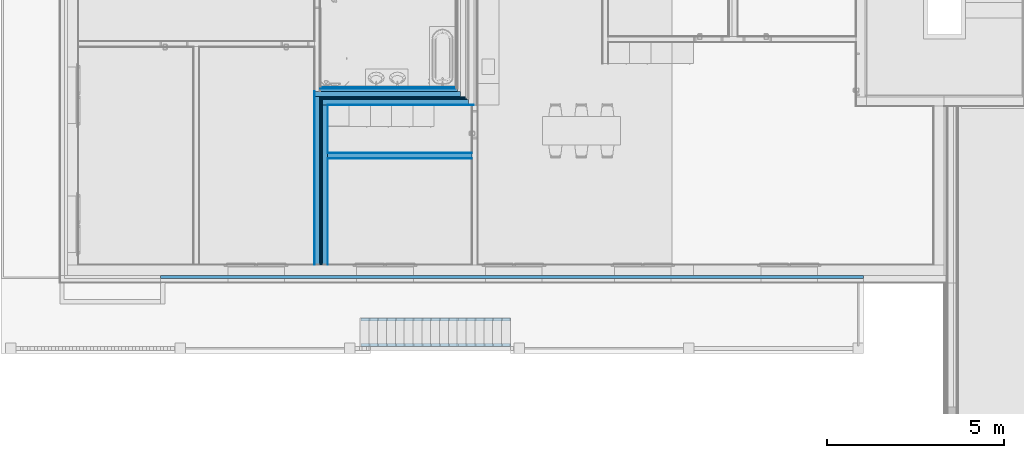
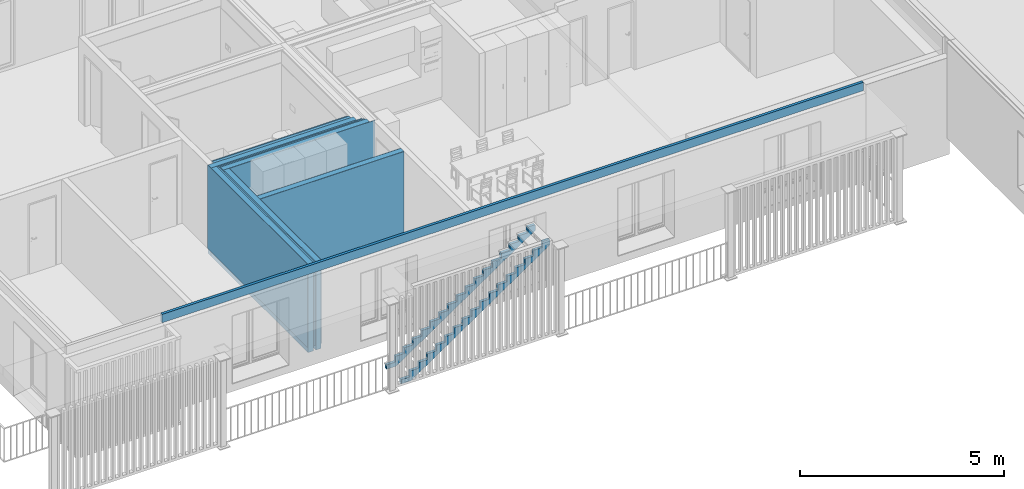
# One storey, part 6 of 34: 19 building element parts, 1 discrete accessory, 7 elements without a shape of their own.
"""IFC4 building model written with IfcOpenShell, lengths in millimetres."""

from ifc_helpers import new_model, entity, si_unit, converted_unit, derived_unit, direction, frame, origin_with_axes, place, context, subcontext, project, spatial, polygons, material, type_object, element, aggregate, save


model = new_model("IFC4")

# Units and contexts
model_context = context("Model", 3, precision=0.01, world=origin_with_axes(), true_north=direction((0.0, 1.0)))
body_context = subcontext(model_context, "Body", "Model", "MODEL_VIEW")
ifc_project = project(units=[si_unit("LENGTHUNIT", "METRE", prefix="MILLI"), si_unit("AREAUNIT", "SQUARE_METRE"), si_unit("VOLUMEUNIT", "CUBIC_METRE"), converted_unit("PLANEANGLEUNIT", "DEGREE", entity("IfcPlaneAngleMeasure", 0.0174532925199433), si_unit("PLANEANGLEUNIT", "RADIAN"), dimensions=[0, 0, 0, 0, 0, 0, 0]), converted_unit("TIMEUNIT", "Year", entity("IfcTimeMeasure", 31557600.0), si_unit("TIMEUNIT", "SECOND"), dimensions=[0, 0, 1, 0, 0, 0, 0]), si_unit("MASSUNIT", "GRAM", prefix="KILO"), si_unit("THERMODYNAMICTEMPERATUREUNIT", "DEGREE_CELSIUS"), si_unit("LUMINOUSINTENSITYUNIT", "LUMEN"), si_unit("ENERGYUNIT", "JOULE", prefix="MEGA"), derived_unit("THERMALCONDUCTANCEUNIT", [(si_unit("POWERUNIT", "WATT"), 1), (si_unit("LENGTHUNIT", "METRE"), -1), (si_unit("THERMODYNAMICTEMPERATUREUNIT", "KELVIN"), -1)]), derived_unit("SPECIFICHEATCAPACITYUNIT", [(si_unit("ENERGYUNIT", "JOULE"), 1), (si_unit("MASSUNIT", "GRAM", prefix="KILO"), -1), (si_unit("THERMODYNAMICTEMPERATUREUNIT", "KELVIN"), -1)]), derived_unit("MASSDENSITYUNIT", [(si_unit("MASSUNIT", "GRAM", prefix="KILO"), 1), (si_unit("VOLUMEUNIT", "CUBIC_METRE"), -1)])], contexts=[model_context])

# Site, building, storey
site_placement = place(None, origin_with_axes())
site = spatial("IfcSite", under=ifc_project, at=site_placement, Name="Gelände", CompositionType="ELEMENT")
building_placement = place(site_placement, origin_with_axes())
building = spatial("IfcBuilding", under=site, at=building_placement, Name="Gebäude", CompositionType="ELEMENT")
storey_placement = place(building_placement, frame((0.0, 0.0, 2900.0), z_axis=(0.0, 0.0, 1.0), x_axis=(1.0, 0.0, 0.0)))
storey = spatial("IfcBuildingStorey", under=building, at=storey_placement, Name="1.OG", CompositionType="ELEMENT", Elevation=2900.0)

# Discrete accessory
ifc_material_1 = material(Name="Bewehrung")
discrete_accessory_type = type_object("IfcDiscreteAccessoryType", Name="Bewehrung 80 x 250", PredefinedType="NOTDEFINED")
discrete_accessory_placement = place(storey_placement, frame((-4228.246602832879, 23157.59674077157, 2649.999948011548), z_axis=(0.0, 0.0, 1.0), x_axis=(0.0, -1.0, 0.0)))
element("IfcDiscreteAccessory", 1, at=discrete_accessory_placement, inside=storey, type_object=discrete_accessory_type, material=ifc_material_1, Name="Unterzug-029", PredefinedType="NOTDEFINED", context=body_context, shape_type="Tessellation", body=[
    polygons([(0.0, 19866.2424213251, 0.0), (79.9999999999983, 19866.2424213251, 0.0), (79.9999999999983, 0.0, 0.0), (0.0, 0.0, 0.0), (0.0, 19866.2424213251, 250.0), (79.9999999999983, 19866.2424213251, 250.0), (79.9999999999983, 0.0, 250.0), (0.0, 0.0, 250.0)], [[[1, 2, 3, 4]], [[1, 5, 6, 2]], [[2, 6, 7, 3]], [[4, 3, 7, 8]], [[5, 1, 4, 8]], [[6, 5, 8, 7]]], closed=True),
])

# Wall, building element parts
wall_type_1 = type_object("IfcWallType", Name="Innenwand Typ 05 170", PredefinedType="NOTDEFINED")
wall_1_placement = place(storey_placement, frame((4740.995818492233, 26457.59674077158, 0.0), z_axis=(0.0, 0.0, 1.0), x_axis=(-1.0, 0.0, 0.0)))
wall_1 = element("IfcWall", 2, at=wall_1_placement, inside=storey, type_object=wall_type_1, Name="Wand-014", PredefinedType="NOTDEFINED")
ifc_material_2 = material(Name="Kalkzementputz Aussen")
building_element_part_1_placement = place(wall_1_placement, origin_with_axes())
building_element_part_1 = element("IfcBuildingElementPart", 3, at=building_element_part_1_placement, material=ifc_material_2, Name="Kalkzementputz Aussen", PredefinedType="NOTDEFINED", context=body_context, shape_type="Tessellation", body=[
    polygons([(169.9999999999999, 0.0, 149.9999999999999), (169.9999999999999, -10.00000000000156, 149.9999999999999), (169.9999999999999, -10.00000000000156, 2649.999948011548), (169.9999999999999, 0.0, 2649.999948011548), (4238.00001840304, -10.00000000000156, 149.9999999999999), (4238.00001840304, 0.0, 149.9999999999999), (4238.00001840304, -10.00000000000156, 2649.999948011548), (4238.00001840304, 0.0, 2649.999948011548)], [[[1, 2, 3, 4]], [[5, 2, 1, 6]], [[2, 5, 7, 3]], [[7, 8, 4, 3]], [[6, 1, 4, 8]], [[5, 6, 8, 7]]], closed=True),
])
ifc_material_3 = material(Name="MW, Backstein")
building_element_part_2_placement = place(wall_1_placement, origin_with_axes())
building_element_part_2 = element("IfcBuildingElementPart", 4, at=building_element_part_2_placement, material=ifc_material_3, Name="MW, Backstein", PredefinedType="NOTDEFINED", context=body_context, shape_type="Tessellation", body=[
    polygons([(4248.00001840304, -10.00000000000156, 2649.999948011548), (160.0000000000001, -10.00000000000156, 2649.999948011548), (159.9999999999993, -160.0000000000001, 2649.999948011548), (4248.00001840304, -160.0000000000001, 2649.999948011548), (4248.00001840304, -10.00000000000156, 0.0), (160.0000000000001, -10.00000000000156, 0.0), (159.9999999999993, -160.0000000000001, 0.0), (4248.00001840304, -160.0000000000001, 0.0)], [[[1, 2, 3, 4]], [[5, 6, 2, 1]], [[3, 2, 6, 7]], [[4, 3, 7, 8]], [[4, 8, 5, 1]], [[8, 7, 6, 5]]], closed=True),
])
building_element_part_3_placement = place(wall_1_placement, origin_with_axes())
building_element_part_3 = element("IfcBuildingElementPart", 5, at=building_element_part_3_placement, material=ifc_material_2, Name="Kalkzementputz Aussen", PredefinedType="NOTDEFINED", context=body_context, shape_type="Tessellation", body=[
    polygons([(169.999999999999, -160.0000000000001, 149.9999999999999), (169.999999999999, -170.0000000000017, 149.9999999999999), (169.999999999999, -169.9999999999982, 2649.999948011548), (169.999999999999, -160.0000000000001, 2649.999948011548), (4238.00001840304, -170.0000000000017, 149.9999999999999), (4238.00001840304, -160.0000000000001, 149.9999999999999), (4238.00001840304, -170.0000000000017, 2649.999948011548), (4238.00001840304, -160.0000000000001, 2649.999948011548)], [[[1, 2, 3, 4]], [[5, 2, 1, 6]], [[2, 5, 7, 3]], [[7, 8, 4, 3]], [[6, 1, 4, 8]], [[5, 6, 8, 7]]], closed=True),
])
aggregate(wall_1, [building_element_part_1, building_element_part_2, building_element_part_3])

wall_type_2 = type_object("IfcWallType", Name="Trennwand Typ 03 - verputzt 200", PredefinedType="NOTDEFINED")
wall_2_placement = place(storey_placement, frame((122.9958184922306, 28364.37338563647, 0.0), z_axis=(0.0, 0.0, 1.0), x_axis=(0.0, -1.0, 0.0)))
wall_2 = element("IfcWall", 6, at=wall_2_placement, inside=storey, type_object=wall_type_2, Name="Wand-015", PredefinedType="NOTDEFINED")
ifc_material_4 = material(Name="Dämmung Innen")
building_element_part_4_placement = place(wall_2_placement, origin_with_axes())
building_element_part_4 = element("IfcBuildingElementPart", 7, at=building_element_part_4_placement, material=ifc_material_4, Name="Dämmung Innen", PredefinedType="NOTDEFINED", context=body_context, shape_type="Tessellation", body=[
    polygons([(4906.776644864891, 189.9999999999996, 149.9999999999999), (190.0000000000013, 189.9999999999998, 149.9999999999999), (190.0000000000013, 189.9999999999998, 2649.999948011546), (4906.776644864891, 190.0000000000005, 2649.999948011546), (190.0000000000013, 149.9999999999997, 149.9999999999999), (4906.776644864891, 150.0000000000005, 149.9999999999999), (190.0000000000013, 149.9999999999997, 2649.999948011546), (4906.776644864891, 150.0000000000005, 2649.999948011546)], [[[1, 2, 3, 4]], [[5, 2, 1, 6]], [[2, 5, 7, 3]], [[7, 8, 4, 3]], [[6, 1, 4, 8]], [[5, 6, 8, 7]]], closed=True),
])
building_element_part_5_placement = place(wall_2_placement, origin_with_axes())
building_element_part_5 = element("IfcBuildingElementPart", 8, at=building_element_part_5_placement, material=ifc_material_3, Name="MW, Backstein", PredefinedType="NOTDEFINED", context=body_context, shape_type="Tessellation", body=[
    polygons([(4906.776644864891, 150.0000000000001, 0.0), (4906.776644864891, 0.0, 0.0), (149.9999999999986, 0.0, 0.0), (149.9999999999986, 150.0, 0.0), (4906.776644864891, 150.0000000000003, 2649.999948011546), (4906.776644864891, 0.0, 2649.999948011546), (149.9999999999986, 0.0, 2649.999948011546), (149.9999999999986, 150.0000000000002, 2649.999948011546)], [[[1, 2, 3, 4]], [[1, 5, 6, 2]], [[2, 6, 7, 3]], [[4, 3, 7, 8]], [[5, 1, 4, 8]], [[6, 5, 8, 7]]], closed=True),
])
building_element_part_6_placement = place(wall_2_placement, origin_with_axes())
building_element_part_6 = element("IfcBuildingElementPart", 9, at=building_element_part_6_placement, material=ifc_material_2, Name="Kalkzementputz Aussen", PredefinedType="NOTDEFINED", context=body_context, shape_type="Tessellation", body=[
    polygons([(4906.776644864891, 0.0, 149.9999999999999), (0.0, 0.0, 149.9999999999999), (0.0, 0.0, 2649.999948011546), (4906.776644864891, 0.0, 2649.999948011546), (0.0, -10.0000000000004, 149.9999999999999), (4906.776644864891, -9.999999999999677, 149.9999999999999), (0.0, -9.99999999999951, 2649.999948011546), (4906.776644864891, -9.999999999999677, 2649.999948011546)], [[[1, 2, 3, 4]], [[5, 2, 1, 6]], [[2, 5, 7, 3]], [[3, 7, 8, 4]], [[6, 1, 4, 8]], [[5, 6, 8, 7]]], closed=True),
])
aggregate(wall_2, [building_element_part_4, building_element_part_5, building_element_part_6])

wall_3_placement = place(storey_placement, frame((4625.995818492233, 27984.37338563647, 0.0), z_axis=(0.0, 0.0, 1.0), x_axis=(-1.0, 0.0, 0.0)))
wall_3 = element("IfcWall", 10, at=wall_3_placement, inside=storey, type_object=wall_type_2, Name="Wand-014", PredefinedType="NOTDEFINED")
building_element_part_7_placement = place(wall_3_placement, origin_with_axes())
building_element_part_7 = element("IfcBuildingElementPart", 11, at=building_element_part_7_placement, material=ifc_material_2, Name="Kalkzementputz Aussen", PredefinedType="NOTDEFINED", context=body_context, shape_type="Tessellation", body=[
    polygons([(0.0, 10.00000000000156, 149.9999999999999), (0.0, 0.0, 149.9999999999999), (0.0, 0.0, 2649.999948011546), (0.0, 10.00000000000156, 2649.999948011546), (4133.00001840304, 0.0, 149.9999999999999), (4133.00001840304, 9.99999999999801, 149.9999999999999), (4133.00001840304, 0.0, 2649.999948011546), (4133.00001840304, 10.00000000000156, 2649.999948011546)], [[[1, 2, 3, 4]], [[5, 2, 1, 6]], [[2, 5, 7, 3]], [[7, 8, 4, 3]], [[6, 1, 4, 8]], [[5, 6, 8, 7]]], closed=True),
])
building_element_part_8_placement = place(wall_3_placement, origin_with_axes())
building_element_part_8 = element("IfcBuildingElementPart", 12, at=building_element_part_8_placement, material=ifc_material_3, Name="MW, Backstein", PredefinedType="NOTDEFINED", context=body_context, shape_type="Tessellation", body=[
    polygons([(4283.000018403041, 0.0, 2649.999948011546), (150.0000000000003, 0.0, 2649.999948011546), (150.0000000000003, -149.9999999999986, 2649.999948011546), (4283.000018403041, -149.9999999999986, 2649.999948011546), (4283.000018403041, 0.0, 0.0), (150.0000000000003, 0.0, 0.0), (150.0000000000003, -149.9999999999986, 0.0), (4283.000018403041, -149.9999999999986, 0.0)], [[[1, 2, 3, 4]], [[5, 6, 2, 1]], [[3, 2, 6, 7]], [[4, 3, 7, 8]], [[4, 8, 5, 1]], [[8, 7, 6, 5]]], closed=True),
])
building_element_part_9_placement = place(wall_3_placement, origin_with_axes())
building_element_part_9 = element("IfcBuildingElementPart", 13, at=building_element_part_9_placement, material=ifc_material_4, Name="Dämmung Innen", PredefinedType="NOTDEFINED", context=body_context, shape_type="Tessellation", body=[
    polygons([(190.0000000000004, -149.9999999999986, 149.9999999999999), (190.0000000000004, -190.0000000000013, 149.9999999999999), (190.0000000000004, -190.0000000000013, 2649.999948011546), (190.0000000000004, -149.9999999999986, 2649.999948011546), (4323.000018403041, -190.0000000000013, 149.9999999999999), (4323.000018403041, -149.9999999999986, 149.9999999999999), (4323.000018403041, -190.0000000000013, 2649.999948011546), (4323.000018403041, -149.9999999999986, 2649.999948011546)], [[[1, 2, 3, 4]], [[5, 2, 1, 6]], [[2, 5, 7, 3]], [[7, 8, 4, 3]], [[6, 1, 4, 8]], [[5, 6, 8, 7]]], closed=True),
])
aggregate(wall_3, [building_element_part_7, building_element_part_8, building_element_part_9])

wall_4_placement = place(storey_placement, frame((492.9958000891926, 27984.37338563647, 0.0), z_axis=(0.0, 0.0, 1.0), x_axis=(0.0, -1.0, 0.0)))
wall_4 = element("IfcWall", 14, at=wall_4_placement, inside=storey, type_object=wall_type_2, Name="Wand-014", PredefinedType="NOTDEFINED")
building_element_part_10_placement = place(wall_4_placement, origin_with_axes())
building_element_part_10 = element("IfcBuildingElementPart", 15, at=building_element_part_10_placement, material=ifc_material_3, Name="MW, Backstein", PredefinedType="NOTDEFINED", context=body_context, shape_type="Tessellation", body=[
    polygons([(4526.776644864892, -149.9999999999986, 2649.999948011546), (4526.776644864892, 0.0, 2649.999948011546), (0.0, 0.0, 2649.999948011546), (0.0, -149.9999999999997, 2649.999948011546), (4526.776644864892, -149.9999999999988, 0.0), (4526.776644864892, 0.0, 0.0), (0.0, 0.0, 0.0), (0.0, -150.0, 0.0)], [[[1, 2, 3, 4]], [[1, 5, 6, 2]], [[2, 6, 7, 3]], [[4, 3, 7, 8]], [[5, 1, 4, 8]], [[6, 5, 8, 7]]], closed=True),
])
building_element_part_11_placement = place(wall_4_placement, origin_with_axes())
building_element_part_11 = element("IfcBuildingElementPart", 16, at=building_element_part_11_placement, material=ifc_material_4, Name="Dämmung Innen", PredefinedType="NOTDEFINED", context=body_context, shape_type="Tessellation", body=[
    polygons([(4526.776644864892, -149.9999999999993, 149.9999999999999), (-149.9999999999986, -150.0000000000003, 149.9999999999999), (-149.9999999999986, -149.9999999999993, 2649.999948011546), (4526.776644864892, -149.9999999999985, 2649.999948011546), (-149.9999999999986, -190.0000000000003, 149.9999999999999), (4526.776644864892, -189.9999999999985, 149.9999999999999), (-149.9999999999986, -190.0000000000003, 2649.999948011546), (4526.776644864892, -189.9999999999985, 2649.999948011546)], [[[1, 2, 3, 4]], [[5, 2, 1, 6]], [[2, 5, 7, 3]], [[7, 8, 4, 3]], [[6, 1, 4, 8]], [[5, 6, 8, 7]]], closed=True),
])
building_element_part_12_placement = place(wall_4_placement, origin_with_axes())
building_element_part_12 = element("IfcBuildingElementPart", 17, at=building_element_part_12_placement, material=ifc_material_2, Name="Kalkzementputz Aussen", PredefinedType="NOTDEFINED", context=body_context, shape_type="Tessellation", body=[
    polygons([(4526.776644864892, 10.00000000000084, 149.9999999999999), (1516.77664486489, 10.00000000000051, 149.9999999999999), (1516.77664486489, 10.00000000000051, 2649.999948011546), (4526.776644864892, 10.00000000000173, 2649.999948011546), (1516.77664486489, 0.0, 149.9999999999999), (4526.776644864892, 0.0, 149.9999999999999), (1516.77664486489, 0.0, 2649.999948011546), (4526.776644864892, 0.0, 2649.999948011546)], [[[1, 2, 3, 4]], [[5, 2, 1, 6]], [[2, 5, 7, 3]], [[7, 8, 4, 3]], [[6, 1, 4, 8]], [[5, 6, 8, 7]]], closed=True),
    polygons([(1366.776644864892, 10.00000000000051, 149.9999999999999), (10.00000000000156, 9.999999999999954, 149.9999999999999), (10.00000000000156, 9.999999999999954, 2649.999948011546), (1366.776644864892, 10.00000000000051, 2649.999948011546), (10.00000000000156, 0.0, 149.9999999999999), (1366.776644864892, 0.0, 149.9999999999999), (10.00000000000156, 0.0, 2649.999948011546), (1366.776644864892, 0.0, 2649.999948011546)], [[[1, 2, 3, 4]], [[5, 2, 1, 6]], [[2, 5, 7, 3]], [[8, 4, 3, 7]], [[6, 1, 4, 8]], [[5, 6, 8, 7]]], closed=True),
])
aggregate(wall_4, [building_element_part_10, building_element_part_11, building_element_part_12])

wall_type_3 = type_object("IfcWallType", Name="Vorsatzschale 01 115", PredefinedType="NOTDEFINED")
wall_5_placement = place(storey_placement, frame((4130.995818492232, 28479.37338563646, 0.0), z_axis=(0.0, 0.0, 1.0), x_axis=(-1.0, 0.0, 0.0)))
wall_5 = element("IfcWall", 18, at=wall_5_placement, inside=storey, type_object=wall_type_3, Name="Wand-015", PredefinedType="NOTDEFINED")
ifc_material_5 = material(Name="Ständer Konstruktion gedämmt")
building_element_part_13_placement = place(wall_5_placement, origin_with_axes())
building_element_part_13 = element("IfcBuildingElementPart", 19, at=building_element_part_13_placement, material=ifc_material_5, Name="Ständer Konstruktion gedämmt", PredefinedType="NOTDEFINED", context=body_context, shape_type="Tessellation", body=[
    polygons([(3848.000000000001, 114.9999999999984, 0.0), (3848.000000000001, 35.00000000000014, 0.0), (-35.00000000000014, 35.00000000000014, 0.0), (-35.00000000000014, 114.9999999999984, 0.0), (3848.000000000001, 114.9999999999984, 2649.999948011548), (3848.000000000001, 35.00000000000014, 2649.999948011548), (-35.00000000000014, 35.00000000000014, 2649.999948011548), (-35.00000000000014, 114.9999999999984, 2649.999948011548)], [[[1, 2, 3, 4]], [[1, 5, 6, 2]], [[2, 6, 7, 3]], [[4, 3, 7, 8]], [[5, 1, 4, 8]], [[6, 5, 8, 7]]], closed=True),
])
ifc_material_6 = material(Name="Gipskartonplatte GKP")
building_element_part_14_placement = place(wall_5_placement, origin_with_axes())
building_element_part_14 = element("IfcBuildingElementPart", 20, at=building_element_part_14_placement, material=ifc_material_6, Name="Gipskartonplatte GKP", PredefinedType="NOTDEFINED", context=body_context, shape_type="Tessellation", body=[
    polygons([(3848.000000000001, 35.00000000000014, 0.0), (3848.000000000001, 22.50000000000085, 0.0), (-22.49999999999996, 22.50000000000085, 0.0), (-22.49999999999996, 35.00000000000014, 0.0), (3848.000000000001, 35.00000000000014, 2649.999948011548), (3848.000000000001, 22.50000000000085, 2649.999948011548), (-22.49999999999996, 22.50000000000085, 2649.999948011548), (-22.49999999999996, 35.00000000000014, 2649.999948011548)], [[[1, 2, 3, 4]], [[1, 5, 6, 2]], [[2, 6, 7, 3]], [[4, 3, 7, 8]], [[5, 1, 4, 8]], [[6, 5, 8, 7]]], closed=True),
])
building_element_part_15_placement = place(wall_5_placement, origin_with_axes())
building_element_part_15 = element("IfcBuildingElementPart", 21, at=building_element_part_15_placement, material=ifc_material_2, Name="Kalkzementputz Aussen", PredefinedType="NOTDEFINED", context=body_context, shape_type="Tessellation", body=[
    polygons([(3848.000000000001, 9.99999999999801, 0.0), (3848.000000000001, 0.0, 0.0), (0.0, 0.0, 0.0), (0.0, 10.00000000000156, 0.0), (3848.000000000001, 10.00000000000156, 2649.999948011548), (3848.000000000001, 0.0, 2649.999948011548), (0.0, 0.0, 2649.999948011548), (0.0, 10.00000000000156, 2649.999948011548)], [[[1, 2, 3, 4]], [[1, 5, 6, 2]], [[2, 6, 7, 3]], [[4, 3, 7, 8]], [[5, 1, 4, 8]], [[6, 5, 8, 7]]], closed=True),
])
building_element_part_16_placement = place(wall_5_placement, origin_with_axes())
building_element_part_16 = element("IfcBuildingElementPart", 22, at=building_element_part_16_placement, material=ifc_material_6, Name="Gipskartonplatte GKP", PredefinedType="NOTDEFINED", context=body_context, shape_type="Tessellation", body=[
    polygons([(3848.000000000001, 22.50000000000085, 0.0), (3848.000000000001, 9.99999999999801, 0.0), (-9.999999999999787, 10.00000000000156, 0.0), (-9.999999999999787, 22.50000000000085, 0.0), (3848.000000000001, 22.50000000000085, 2649.999948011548), (3848.000000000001, 10.00000000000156, 2649.999948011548), (-9.999999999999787, 10.00000000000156, 2649.999948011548), (-9.999999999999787, 22.50000000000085, 2649.999948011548)], [[[1, 2, 3, 4]], [[1, 5, 6, 2]], [[2, 6, 7, 3]], [[4, 3, 7, 8]], [[5, 1, 4, 8]], [[6, 5, 8, 7]]], closed=True),
])
aggregate(wall_5, [building_element_part_13, building_element_part_14, building_element_part_15, building_element_part_16])

wall_type_4 = type_object("IfcWallType", Name="Trennwand Typ 02 - kein Putz 190", PredefinedType="NOTDEFINED")
wall_6_placement = place(storey_placement, frame((4245.995818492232, 28364.37338563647, 0.0), z_axis=(0.0, 0.0, 1.0), x_axis=(-1.0, 0.0, 0.0)))
wall_6 = element("IfcWall", 23, at=wall_6_placement, inside=storey, type_object=wall_type_4, Name="Wand-015", PredefinedType="NOTDEFINED")
building_element_part_17_placement = place(wall_6_placement, origin_with_axes())
building_element_part_17 = element("IfcBuildingElementPart", 24, at=building_element_part_17_placement, material=ifc_material_4, Name="Dämmung Innen", PredefinedType="NOTDEFINED", context=body_context, shape_type="Tessellation", body=[
    polygons([(-150.0000000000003, 190.0000000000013, 149.9999999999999), (-150.0000000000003, 149.9999999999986, 149.9999999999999), (-150.0000000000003, 149.9999999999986, 2649.999948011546), (-150.0000000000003, 190.0000000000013, 2649.999948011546), (3973.000000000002, 149.9999999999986, 149.9999999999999), (3973.000000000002, 190.0000000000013, 149.9999999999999), (3973.000000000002, 149.9999999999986, 2649.999948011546), (3973.000000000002, 190.0000000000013, 2649.999948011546)], [[[1, 2, 3, 4]], [[5, 2, 1, 6]], [[2, 5, 7, 3]], [[7, 8, 4, 3]], [[6, 1, 4, 8]], [[5, 6, 8, 7]]], closed=True),
])
building_element_part_18_placement = place(wall_6_placement, origin_with_axes())
building_element_part_18 = element("IfcBuildingElementPart", 25, at=building_element_part_18_placement, material=ifc_material_3, Name="MW, Backstein", PredefinedType="NOTDEFINED", context=body_context, shape_type="Tessellation", body=[
    polygons([(4123.000000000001, 149.9999999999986, 0.0), (4123.000000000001, 0.0, 0.0), (0.0, 0.0, 0.0), (0.0, 149.9999999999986, 0.0), (4123.000000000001, 149.9999999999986, 2649.999948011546), (4123.000000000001, 0.0, 2649.999948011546), (0.0, 0.0, 2649.999948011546), (0.0, 149.9999999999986, 2649.999948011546)], [[[1, 2, 3, 4]], [[2, 1, 5, 6]], [[2, 6, 7, 3]], [[8, 4, 3, 7]], [[5, 1, 4, 8]], [[6, 5, 8, 7]]], closed=True),
])
aggregate(wall_6, [building_element_part_17, building_element_part_18])

# Stair, building element part
stair_type = type_object("IfcStairType", Name="Treppentyp 01 - Metall - Holz", PredefinedType="NOTDEFINED")
stair_placement = place(storey_placement, frame((967.6586056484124, 21069.06207956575, 0.0), z_axis=(0.0, 0.0, 1.0), x_axis=(-0.01941475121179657, 0.9998115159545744, 0.0)))
stair = element("IfcStair", 26, at=stair_placement, inside=storey, type_object=stair_type, Name="Treppe-001", PredefinedType="NOTDEFINED")
ifc_material_7 = material(Name="Stahl")
building_element_part_19_placement = place(stair_placement, origin_with_axes())
building_element_part_19 = element("IfcBuildingElementPart", 27, at=building_element_part_19_placement, material=ifc_material_7, Name="Stahl", PredefinedType="NOTDEFINED", context=body_context, shape_type="Tessellation", body=[
    polygons([(797.3365201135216, -4705.104140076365, 2839.529411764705), (797.6077085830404, -4691.138606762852, 2859.999999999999), (717.6227873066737, -4689.585426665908, 2859.999999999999), (717.3515988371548, -4703.550959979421, 2839.529411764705), (801.6077653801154, -4485.145606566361, 2689.411764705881), (801.6077653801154, -4485.145606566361, 2859.999999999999), (797.3365201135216, -4705.104140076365, 2694.254776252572), (873.9952153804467, -757.3715376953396, 0.0), (879.2667702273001, -485.8995427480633, 0.0), (879.2667702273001, -485.8995427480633, 130.5882352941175), (874.4130824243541, -735.8524217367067, 130.5882352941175), (874.4130824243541, -735.8524217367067, 301.1764705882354), (869.5593946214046, -985.8053007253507, 301.1764705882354), (869.5593946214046, -985.8053007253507, 471.7647058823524), (864.7057068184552, -1235.758179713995, 471.7647058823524), (864.7057068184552, -1235.758179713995, 642.3529411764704), (859.8520190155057, -1485.711058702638, 642.3529411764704), (859.8520190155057, -1485.711058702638, 812.9411764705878), (854.9983312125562, -1735.663937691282, 812.9411764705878), (854.9983312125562, -1735.663937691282, 983.5294117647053), (850.1446434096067, -1985.616816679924, 983.5294117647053), (850.1446434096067, -1985.616816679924, 1154.117647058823), (845.2909556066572, -2235.569695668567, 1154.117647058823), (845.2909556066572, -2235.569695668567, 1324.705882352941), (840.4372678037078, -2485.52257465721, 1324.705882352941), (840.4372678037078, -2485.52257465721, 1495.294117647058), (835.5835800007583, -2735.475453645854, 1495.294117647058), (835.5835800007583, -2735.475453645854, 1665.882352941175), (830.7298921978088, -2985.428332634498, 1665.882352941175), (830.7298921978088, -2985.428332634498, 1836.470588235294), (825.8762043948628, -3235.381211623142, 1836.470588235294), (825.8762043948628, -3235.381211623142, 2007.058823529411), (821.0225165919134, -3485.334090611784, 2007.058823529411), (821.0225165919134, -3485.334090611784, 2177.647058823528), (816.1688287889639, -3735.28696960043, 2177.647058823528), (816.1688287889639, -3735.28696960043, 2348.235294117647), (811.3151409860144, -3985.239848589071, 2348.235294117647), (811.3151409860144, -3985.239848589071, 2518.823529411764), (806.4614531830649, -4235.192727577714, 2518.823529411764), (806.4614531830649, -4235.192727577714, 2689.411764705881), (721.6228441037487, -4483.592426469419, 2859.999999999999), (721.6228441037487, -4483.592426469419, 2689.411764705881), (726.4765319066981, -4233.639547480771, 2689.411764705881), (726.4765319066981, -4233.639547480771, 2518.823529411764), (731.3302197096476, -3983.686668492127, 2518.823529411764), (731.3302197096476, -3983.686668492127, 2348.235294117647), (736.1839075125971, -3733.733789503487, 2348.235294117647), (736.1839075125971, -3733.733789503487, 2177.647058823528), (741.0375953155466, -3483.780910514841, 2177.647058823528), (741.0375953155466, -3483.780910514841, 2007.058823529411), (745.8912831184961, -3233.828031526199, 2007.058823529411), (745.8912831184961, -3233.828031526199, 1836.470588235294), (750.744970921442, -2983.875152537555, 1836.470588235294), (750.744970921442, -2983.875152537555, 1665.882352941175), (755.5986587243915, -2733.92227354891, 1665.882352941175), (755.5986587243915, -2733.92227354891, 1495.294117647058), (760.452346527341, -2483.969394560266, 1495.294117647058), (760.452346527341, -2483.969394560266, 1324.705882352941), (765.3060343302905, -2234.016515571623, 1324.705882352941), (765.3060343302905, -2234.016515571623, 1154.117647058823), (770.1597221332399, -1984.063636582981, 1154.117647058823), (770.1597221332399, -1984.063636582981, 983.5294117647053), (775.0134099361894, -1734.110757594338, 983.5294117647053), (775.0134099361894, -1734.110757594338, 812.9411764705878), (779.8670977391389, -1484.157878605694, 812.9411764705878), (779.8670977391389, -1484.157878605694, 642.3529411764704), (784.7207855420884, -1234.204999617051, 642.3529411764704), (784.7207855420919, -1234.204999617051, 471.7647058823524), (789.5744733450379, -984.2521206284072, 471.7647058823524), (789.5744733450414, -984.2521206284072, 301.1764705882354), (794.4281611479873, -734.2992416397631, 301.1764705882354), (794.4281611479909, -734.2992416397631, 130.5882352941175), (799.2818489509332, -484.3463626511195, 130.5882352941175), (799.2818489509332, -484.3463626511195, 0.0), (794.0102941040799, -755.8183575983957, 0.0), (717.3515988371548, -4703.550959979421, 2694.254776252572)], [[[1, 2, 3, 4]], [[5, 6, 2, 1, 7, 8, 9, 10, 11, 12, 13, 14, 15, 16, 17, 18, 19, 20, 21, 22, 23, 24, 25, 26, 27, 28, 29, 30, 31, 32, 33, 34, 35, 36, 37, 38, 39, 40]], [[6, 41, 3, 2]], [[4, 3, 41, 42, 43, 44, 45, 46, 47, 48, 49, 50, 51, 52, 53, 54, 55, 56, 57, 58, 59, 60, 61, 62, 63, 64, 65, 66, 67, 68, 69, 70, 71, 72, 73, 74, 75, 76]], [[1, 4, 76, 7]], [[42, 41, 6, 5]], [[7, 76, 75, 8]], [[8, 75, 74, 9]], [[74, 73, 10, 9]], [[10, 73, 72, 11]], [[11, 72, 71, 12]], [[13, 12, 71, 70]], [[14, 13, 70, 69]], [[68, 15, 14, 69]], [[67, 16, 15, 68]], [[67, 66, 17, 16]], [[66, 65, 18, 17]], [[18, 65, 64, 19]], [[19, 64, 63, 20]], [[21, 20, 63, 62]], [[22, 21, 62, 61]], [[60, 23, 22, 61]], [[59, 24, 23, 60]], [[59, 58, 25, 24]], [[58, 57, 26, 25]], [[26, 57, 56, 27]], [[27, 56, 55, 28]], [[29, 28, 55, 54]], [[30, 29, 54, 53]], [[52, 31, 30, 53]], [[51, 32, 31, 52]], [[51, 50, 33, 32]], [[50, 49, 34, 33]], [[34, 49, 48, 35]], [[35, 48, 47, 36]], [[37, 36, 47, 46]], [[38, 37, 46, 45]], [[44, 39, 38, 45]], [[43, 40, 39, 44]], [[43, 42, 5, 40]]], closed=True),
    polygons([(77.47222862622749, -4691.125519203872, 2839.529411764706), (77.74341709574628, -4677.159985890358, 2859.999999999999), (-2.241504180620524, -4675.606805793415, 2859.999999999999), (-2.512692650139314, -4689.572339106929, 2839.529411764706), (81.74347389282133, -4471.166985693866, 2689.411764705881), (81.74347389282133, -4471.166985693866, 2859.999999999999), (77.47222862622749, -4691.125519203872, 2694.254776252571), (154.1309238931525, -743.3929168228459, 0.0), (159.4024787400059, -471.9209218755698, 0.0), (159.4024787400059, -471.9209218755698, 130.5882352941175), (154.54879093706, -721.8738008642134, 130.5882352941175), (154.54879093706, -721.8738008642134, 301.1764705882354), (149.6951031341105, -971.8266798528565, 301.1764705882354), (149.6951031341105, -971.8266798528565, 471.7647058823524), (144.841415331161, -1221.779558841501, 471.7647058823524), (144.841415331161, -1221.779558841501, 642.3529411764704), (139.9877275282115, -1471.732437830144, 642.3529411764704), (139.9877275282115, -1471.732437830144, 812.9411764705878), (135.1340397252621, -1721.685316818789, 812.9411764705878), (135.1340397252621, -1721.685316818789, 983.5294117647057), (130.2803519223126, -1971.638195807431, 983.5294117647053), (130.2803519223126, -1971.638195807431, 1154.117647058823), (125.4266641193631, -2221.591074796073, 1154.117647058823), (125.4266641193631, -2221.591074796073, 1324.705882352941), (120.5729763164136, -2471.543953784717, 1324.705882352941), (120.5729763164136, -2471.543953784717, 1495.294117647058), (115.7192885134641, -2721.496832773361, 1495.294117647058), (115.7192885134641, -2721.496832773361, 1665.882352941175), (110.8656007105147, -2971.449711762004, 1665.882352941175), (110.8656007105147, -2971.449711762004, 1836.470588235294), (106.0119129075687, -3221.402590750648, 1836.470588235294), (106.0119129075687, -3221.402590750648, 2007.058823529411), (101.1582251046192, -3471.355469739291, 2007.058823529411), (101.1582251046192, -3471.355469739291, 2177.647058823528), (96.30453730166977, -3721.308348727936, 2177.647058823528), (96.30453730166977, -3721.308348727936, 2348.235294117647), (91.45084949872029, -3971.261227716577, 2348.235294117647), (91.45084949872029, -3971.261227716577, 2518.823529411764), (86.59716169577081, -4221.214106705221, 2518.823529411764), (86.59716169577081, -4221.214106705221, 2689.411764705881), (1.758552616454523, -4469.613805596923, 2859.999999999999), (1.758552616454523, -4469.613805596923, 2689.411764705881), (6.612240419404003, -4219.660926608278, 2689.411764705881), (6.612240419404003, -4219.660926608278, 2518.823529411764), (11.46592822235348, -3969.708047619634, 2518.823529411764), (11.46592822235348, -3969.708047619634, 2348.235294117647), (16.31961602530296, -3719.755168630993, 2348.235294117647), (16.31961602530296, -3719.755168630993, 2177.647058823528), (21.17330382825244, -3469.802289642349, 2177.647058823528), (21.17330382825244, -3469.802289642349, 2007.058823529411), (26.02699163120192, -3219.849410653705, 2007.058823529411), (26.02699163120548, -3219.849410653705, 1836.470588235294), (30.8806794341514, -2969.896531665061, 1836.470588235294), (30.8806794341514, -2969.896531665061, 1665.882352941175), (35.73436723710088, -2719.943652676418, 1665.882352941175), (35.73436723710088, -2719.943652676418, 1495.294117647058), (40.58805504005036, -2469.990773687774, 1495.294117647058), (40.58805504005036, -2469.990773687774, 1324.705882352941), (45.44174284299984, -2220.03789469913, 1324.705882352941), (45.44174284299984, -2220.03789469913, 1154.117647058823), (50.29543064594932, -1970.085015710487, 1154.117647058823), (50.29543064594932, -1970.085015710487, 983.5294117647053), (55.1491184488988, -1720.132136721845, 983.5294117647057), (55.1491184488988, -1720.132136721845, 812.9411764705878), (60.00280625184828, -1470.1792577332, 812.9411764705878), (60.00280625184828, -1470.1792577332, 642.3529411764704), (64.85649405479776, -1220.226378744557, 642.3529411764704), (64.85649405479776, -1220.226378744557, 471.7647058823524), (69.71018185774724, -970.273499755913, 471.7647058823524), (69.71018185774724, -970.273499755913, 301.1764705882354), (74.56386966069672, -720.3206207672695, 301.1764705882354), (74.56386966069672, -720.3206207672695, 130.5882352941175), (79.41755746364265, -470.3677417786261, 130.5882352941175), (79.41755746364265, -470.3677417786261, 0.0), (74.14600261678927, -741.8397367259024, 0.0), (-2.512692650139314, -4689.572339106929, 2694.254776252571)], [[[1, 2, 3, 4]], [[5, 6, 2, 1, 7, 8, 9, 10, 11, 12, 13, 14, 15, 16, 17, 18, 19, 20, 21, 22, 23, 24, 25, 26, 27, 28, 29, 30, 31, 32, 33, 34, 35, 36, 37, 38, 39, 40]], [[6, 41, 3, 2]], [[4, 3, 41, 42, 43, 44, 45, 46, 47, 48, 49, 50, 51, 52, 53, 54, 55, 56, 57, 58, 59, 60, 61, 62, 63, 64, 65, 66, 67, 68, 69, 70, 71, 72, 73, 74, 75, 76]], [[1, 4, 76, 7]], [[42, 41, 6, 5]], [[7, 76, 75, 8]], [[8, 75, 74, 9]], [[74, 73, 10, 9]], [[10, 73, 72, 11]], [[11, 72, 71, 12]], [[13, 12, 71, 70]], [[14, 13, 70, 69]], [[68, 15, 14, 69]], [[67, 16, 15, 68]], [[67, 66, 17, 16]], [[66, 65, 18, 17]], [[18, 65, 64, 19]], [[19, 64, 63, 20]], [[21, 20, 63, 62]], [[22, 21, 62, 61]], [[60, 23, 22, 61]], [[59, 24, 23, 60]], [[59, 58, 25, 24]], [[58, 57, 26, 25]], [[26, 57, 56, 27]], [[27, 56, 55, 28]], [[29, 28, 55, 54]], [[30, 29, 54, 53]], [[52, 31, 30, 53]], [[51, 32, 31, 52]], [[51, 50, 33, 32]], [[50, 49, 34, 33]], [[34, 49, 48, 35]], [[35, 48, 47, 36]], [[37, 36, 47, 46]], [[38, 37, 46, 45]], [[44, 39, 38, 45]], [[43, 40, 39, 44]], [[43, 42, 5, 40]]], closed=True),
])
aggregate(stair, [building_element_part_19])

save(model, "model.ifc")
